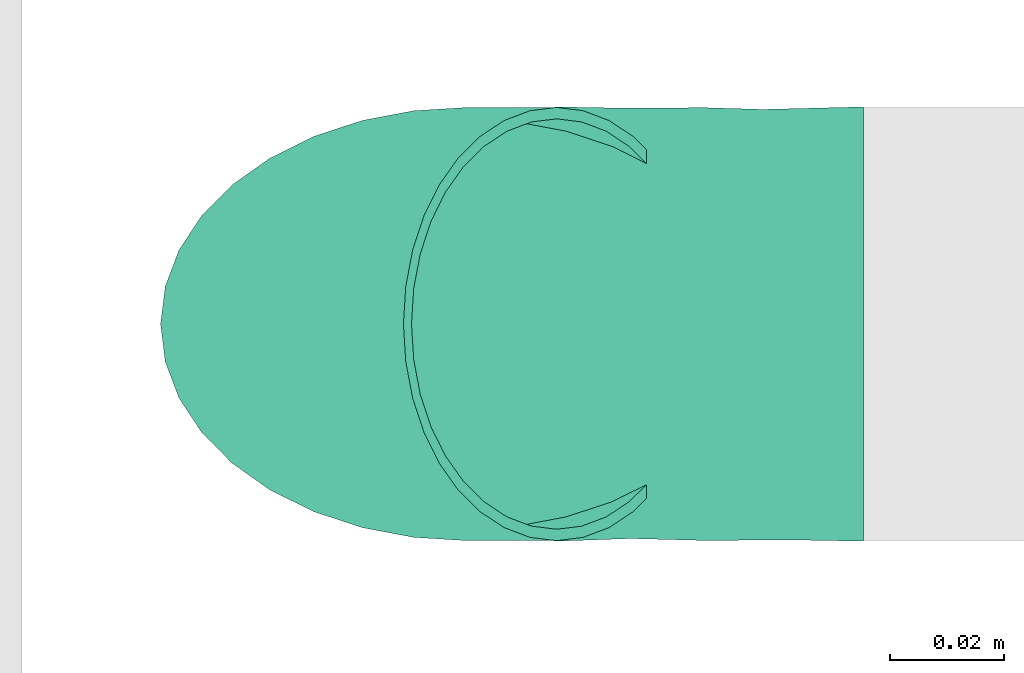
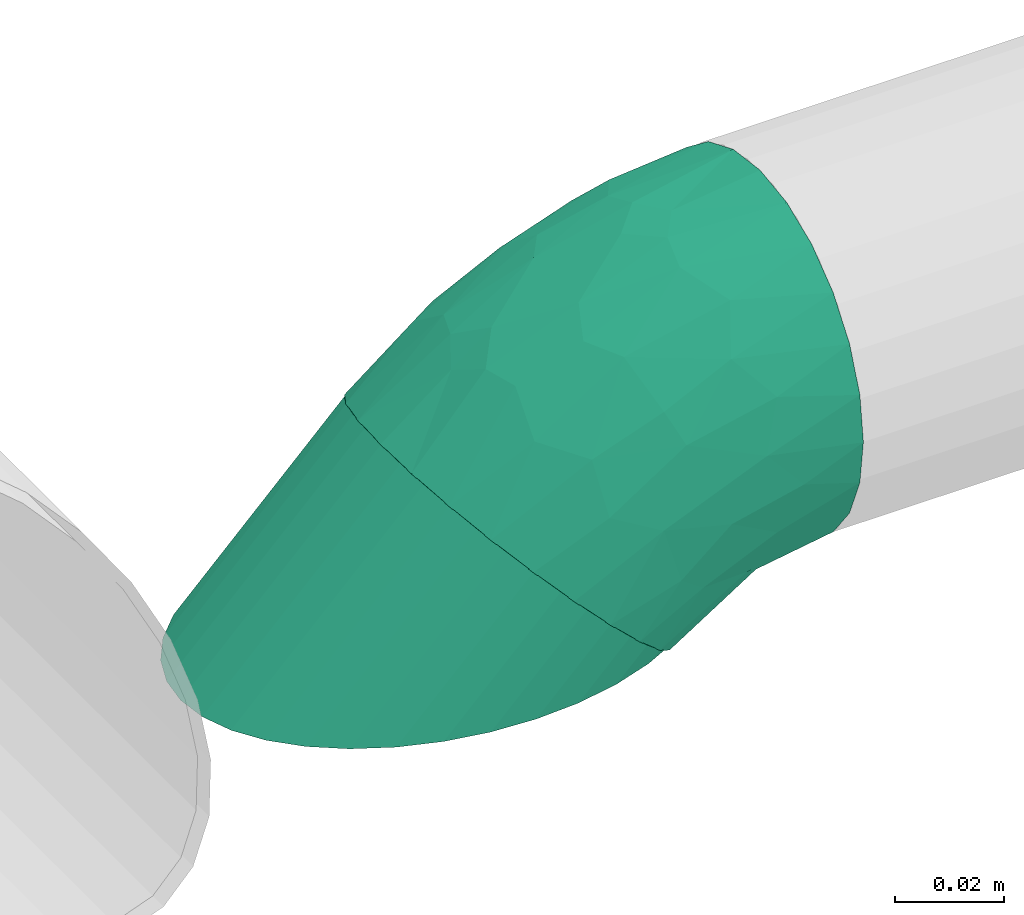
# One storey, part 120 of 156: 1 flow fitting, 1 flow segment.
"""IFC2X3 building model written with IfcOpenShell, lengths in millimetres."""

from ifc_helpers import new_model, entity, si_unit, converted_unit, derived_unit, direction, frame, origin_with_axes, place, context, subcontext, project, spatial, open_shell, faceted_brep, surface_model, source, transform, mapped, type_object, element, save


model = new_model("IFC2X3")

# Units and contexts
model_context = context("Model", 3, precision=0.01, world=frame((0.0, 4.29681676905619e-09, 0.0)), true_north=direction((4.01073788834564e-13, 1.0)))
plan_context = context("Plan", 3, precision=0.01, world=frame((0.0, 4.29681676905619e-09, 0.0)), true_north=direction((4.01073788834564e-13, 1.0)))
body_context = subcontext(model_context, "Body", "Model", "MODEL_VIEW")
ifc_project = project(units=[converted_unit("PLANEANGLEUNIT", "DEGREE", entity("IfcPositiveLengthMeasure", 0.0174532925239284), si_unit("PLANEANGLEUNIT", "RADIAN"), dimensions=[0, 0, 0, 0, 0, 0, 0]), si_unit("AREAUNIT", "SQUARE_METRE"), si_unit("LENGTHUNIT", "METRE", prefix="MILLI"), si_unit("MASSUNIT", "GRAM", prefix="KILO"), si_unit("POWERUNIT", "WATT"), si_unit("PRESSUREUNIT", "PASCAL", prefix="KILO"), si_unit("FORCEUNIT", "NEWTON", prefix="KILO"), si_unit("ELECTRICVOLTAGEUNIT", "VOLT"), si_unit("ELECTRICCURRENTUNIT", "AMPERE"), si_unit("THERMODYNAMICTEMPERATUREUNIT", "DEGREE_CELSIUS"), si_unit("TIMEUNIT", "SECOND"), si_unit("VOLUMEUNIT", "CUBIC_METRE"), derived_unit("LINEARVELOCITYUNIT", [(si_unit("LENGTHUNIT", "METRE"), 1), (si_unit("TIMEUNIT", "SECOND"), -1)]), derived_unit("VOLUMETRICFLOWRATEUNIT", [(si_unit("VOLUMEUNIT", "CUBIC_METRE"), 1), (si_unit("TIMEUNIT", "SECOND"), -1)]), derived_unit("THERMALTRANSMITTANCEUNIT", [(si_unit("POWERUNIT", "WATT"), 1), (si_unit("THERMODYNAMICTEMPERATUREUNIT", "KELVIN"), -1), (si_unit("AREAUNIT", "SQUARE_METRE"), -1)]), derived_unit("SOUNDPRESSUREUNIT", [(si_unit("PRESSUREUNIT", "PASCAL"), 1)])], contexts=[model_context, plan_context])

# Site, building, storey
site_placement = place(None, frame((0.0, -4.29681676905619e-09, 0.0), z_axis=(0.0, 0.0, 1.0), x_axis=(1.0, 0.0, 0.0)))
site = spatial("IfcSite", under=ifc_project, at=site_placement, CompositionType="ELEMENT")
building_placement = place(site_placement, frame((0.0, 4.29681676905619e-09, 0.0), z_axis=(0.0, 0.0, 1.0), x_axis=(1.0, 0.0, 0.0)))
building = spatial("IfcBuilding", under=site, at=building_placement, Name="mc-building", CompositionType="ELEMENT")
storey_placement = place(building_placement, frame((0.0, 0.0, 205200.0), z_axis=(0.0, 0.0, 1.0), x_axis=(1.0, 0.0, 0.0)))
storey = spatial("IfcBuildingStorey", under=building, at=storey_placement, Name="Nivå D + 1,2 m", CompositionType="ELEMENT", Elevation=205200.0)

# Flow fitting
pipe_fitting_type = type_object("IfcPipeFittingType", Name="magi_pipe_fe_elbow_short_001", PredefinedType="BEND")
shared_shape = source(origin_with_axes(), body_context, "Body", "SurfaceModel", [
    surface_model("IfcShellBasedSurfaceModel", [(-31.56307, 19.05, -32.99557), (-31.56307, 9.86101, -36.80177), (-31.56307, 0.0, -38.1), (-31.56307, 26.94077, -26.94077), (-31.56307, 36.80177, -9.86101), (-31.56307, 32.99557, -19.05), (-31.56307, -36.80177, 9.86101), (-31.56307, -9.86101, -36.80177), (-31.56307, -26.94077, -26.94077), (-31.56307, -32.99557, -19.05), (-31.56307, -19.05, -32.99557), (-31.56307, -36.80177, -9.86101), (-31.56307, -38.1, 0.0), (-31.56307, 36.80177, 9.86101), (-31.56307, 26.94077, 26.94077), (-31.56307, 32.99557, 19.05), (-31.56307, 9.86101, 36.80177), (-31.56307, 19.05, 32.99557), (-31.56307, -19.05, 32.99557), (-31.56307, 0.0, 38.1), (-31.56307, -32.99557, 19.05), (-31.56307, -26.94077, 26.94077), (-31.56307, -9.86101, 36.80177), (-31.56307, 38.1, 0.0), (15.34568, 29.29125, -36.80177), (29.29125, 15.34568, -36.80177), (22.31846, 22.31846, -38.1), (3.26846, 41.36846, -26.94077), (8.84808, 35.78885, -32.99557), (-1.01293, 45.64985, -19.05), (-3.70432, 48.34125, -9.86101), (41.36846, 3.26846, -26.94077), (48.34125, -3.70432, 9.86101), (48.34125, -3.70432, -9.86101), (35.78885, 8.84808, -32.99557), (45.64985, -1.01293, 19.05), (45.64985, -1.01293, -19.05), (49.25923, -4.62231, 0.0), (22.31846, 22.31846, 38.1), (15.34568, 29.29125, 36.80177), (-4.62231, 49.25923, 0.0), (-3.70432, 48.34125, 9.86101), (-1.01293, 45.64985, 19.05), (3.26846, 41.36846, 26.94077), (8.84808, 35.78885, 32.99557), (35.78885, 8.84808, 32.99557), (41.36846, 3.26846, 26.94077), (29.29125, 15.34568, 36.80177), (9.70384, -23.42713, 21.23198), (-8.42903, -21.53324, 29.39945), (-12.30295, -29.13928, 22.30902), (-12.72994, -35.62057, 0.0), (-1.98006, -34.20532, 0.0), (-8.1322, -35.10083, 6.50594), (29.30408, -11.90509, 22.30902), (-15.09665, -13.97095, 34.82144), (3.91202, -9.44444, 34.34139), (1.1309, 22.90491, 35.56093), (6.8876, 18.03483, 37.54584), (-11.37114, -3.66836, 37.59524), (-3.62383, 8.74869, 37.96612), (-19.08985, 5.27957, 37.86879), (-10.82238, 26.12754, 31.10505), (-16.802, 31.95247, 24.04366), (20.5539, 0.79599, 34.82144), (-14.63922, 15.85445, 35.61813), (14.70349, -24.93596, 15.0155), (-6.83146, -32.96227, 13.23115), (11.82908, -28.55793, 8.28106), (-15.69549, 37.89226, 15.65312), (30.57037, -19.0697, 6.50594), (34.18897, -16.18612, 0.0), (-15.26074, 40.82522, 8.00526), (28.13842, -18.47728, 13.23115), (10.63454, 5.44669, 37.59524), (21.18653, -9.26608, 29.39945), (-16.98283, 41.00019, 0.0), (6.39501, -15.43892, 30.38264), (11.80343, -28.49601, 0.0), (25.58693, -22.7867, 0.0), (-11.37114, -3.66836, -37.59524), (-8.1322, -35.10083, -6.50594), (11.82908, -28.55793, -8.28105), (10.63454, 5.44669, -37.59524), (-16.99589, 15.39655, -35.56093), (-17.62282, 7.88229, -37.54584), (-10.713, 34.47461, -24.04366), (21.18653, -9.26608, -29.39945), (-15.69549, 37.89226, -15.65312), (28.13842, -18.47728, -13.23115), (-18.07682, 39.65877, -8.00526), (-0.8593, 21.56228, -35.61813), (-6.83146, -32.96227, -13.23115), (-10.82238, 26.12754, -31.10505), (-12.30295, -29.13928, -22.30902), (-8.42903, -21.53324, -29.39945), (6.39501, -15.43892, -30.38263), (9.70384, -23.42713, -21.23198), (-15.09665, -13.97095, -34.82144), (20.5539, 0.79599, -34.82144), (3.91202, -9.44444, -34.34139), (30.57037, -19.0697, -6.50594), (9.76534, 17.23178, -37.86879), (7.23544, -28.02932, -15.0155), (29.30408, -11.90509, -22.30902), (-3.62383, 8.74869, -37.96612)], [open_shell([[[0, 1, 2]], [[3, 0, 2]], [[4, 5, 3]], [[6, 3, 2]], [[6, 2, 7]], [[8, 9, 10]], [[10, 9, 6]], [[11, 12, 9]], [[9, 12, 6]], [[10, 6, 7]], [[3, 6, 4]], [[13, 4, 14]], [[15, 13, 14]], [[16, 17, 14]], [[18, 14, 4]], [[16, 14, 19]], [[20, 21, 6]], [[6, 21, 4]], [[22, 19, 18]], [[18, 4, 21]], [[14, 18, 19]], [[23, 4, 13]], [[24, 25, 26]], [[27, 24, 28]], [[27, 29, 30]], [[24, 27, 25]], [[30, 25, 27]], [[31, 32, 33]], [[31, 34, 35]], [[31, 33, 36]], [[37, 33, 32]], [[38, 34, 25]], [[25, 30, 39]], [[40, 41, 42]], [[42, 43, 30]], [[43, 44, 39]], [[39, 30, 43]], [[39, 38, 25]], [[35, 45, 46]], [[32, 31, 35]], [[45, 38, 47]], [[38, 45, 35]], [[38, 35, 34]], [[30, 40, 42]], [[48, 49, 50]], [[51, 52, 53]], [[18, 21, 49]], [[35, 46, 54]], [[55, 49, 56]], [[50, 49, 21]], [[39, 57, 58]], [[22, 18, 55]], [[59, 60, 61]], [[19, 22, 59]], [[14, 62, 63]], [[45, 47, 64]], [[61, 16, 19]], [[17, 65, 62]], [[6, 51, 53]], [[44, 43, 62]], [[66, 67, 68]], [[62, 14, 17]], [[21, 20, 50]], [[15, 63, 69]], [[13, 15, 69]], [[32, 70, 71]], [[72, 23, 13]], [[73, 66, 68]], [[67, 53, 68]], [[17, 16, 65]], [[38, 58, 74]], [[46, 45, 75]], [[42, 41, 69]], [[74, 47, 38]], [[48, 50, 67]], [[46, 75, 54]], [[60, 58, 57]], [[75, 45, 64]], [[20, 67, 50]], [[70, 32, 73]], [[48, 54, 75]], [[61, 65, 16]], [[48, 66, 54]], [[13, 69, 72]], [[20, 6, 67]], [[76, 72, 40]], [[49, 77, 56]], [[41, 72, 69]], [[56, 74, 59]], [[42, 69, 63]], [[56, 64, 74]], [[42, 63, 43]], [[60, 59, 74]], [[39, 44, 57]], [[57, 62, 65]], [[55, 59, 22]], [[15, 14, 63]], [[73, 32, 35]], [[73, 35, 54]], [[77, 48, 75]], [[43, 63, 62]], [[62, 57, 44]], [[60, 57, 65]], [[49, 55, 18]], [[59, 55, 56]], [[74, 64, 47]], [[75, 64, 56]], [[6, 12, 51]], [[68, 52, 78]], [[6, 53, 67]], [[52, 68, 53]], [[70, 68, 79]], [[71, 70, 79]], [[71, 37, 32]], [[68, 70, 73]], [[74, 58, 60]], [[38, 39, 58]], [[59, 61, 19]], [[65, 61, 60]], [[48, 77, 49]], [[75, 56, 77]], [[40, 72, 41]], [[72, 76, 23]], [[54, 66, 73]], [[67, 66, 48]], [[79, 68, 78]], [[7, 2, 80]], [[52, 81, 82]], [[26, 25, 83]], [[84, 85, 1]], [[5, 86, 3]], [[34, 31, 87]], [[88, 86, 5]], [[36, 33, 89]], [[4, 90, 88]], [[28, 24, 91]], [[11, 81, 51]], [[0, 84, 1]], [[81, 11, 92]], [[27, 93, 86]], [[92, 9, 94]], [[94, 8, 95]], [[8, 10, 95]], [[96, 97, 95]], [[11, 9, 92]], [[8, 94, 9]], [[98, 10, 7]], [[99, 83, 25]], [[30, 29, 88]], [[100, 98, 80]], [[23, 76, 90]], [[97, 94, 95]], [[40, 30, 90]], [[100, 80, 83]], [[27, 28, 93]], [[88, 5, 4]], [[29, 86, 88]], [[98, 95, 10]], [[91, 93, 28]], [[85, 80, 2]], [[93, 91, 84]], [[3, 93, 0]], [[33, 71, 101]], [[102, 24, 26]], [[99, 25, 34]], [[103, 89, 82]], [[31, 104, 87]], [[100, 99, 87]], [[31, 36, 104]], [[105, 102, 83]], [[104, 97, 87]], [[105, 83, 80]], [[101, 71, 79]], [[102, 91, 24]], [[105, 85, 84]], [[81, 92, 82]], [[97, 103, 94]], [[87, 96, 100]], [[36, 89, 104]], [[30, 88, 90]], [[97, 104, 89]], [[29, 27, 86]], [[3, 86, 93]], [[93, 84, 0]], [[105, 84, 91]], [[80, 98, 7]], [[95, 98, 100]], [[87, 99, 34]], [[83, 99, 100]], [[51, 81, 52]], [[51, 12, 11]], [[103, 82, 92]], [[101, 82, 89]], [[82, 79, 78]], [[33, 37, 71]], [[82, 101, 79]], [[33, 101, 89]], [[80, 85, 105]], [[2, 1, 85]], [[83, 102, 26]], [[91, 102, 105]], [[97, 96, 87]], [[95, 100, 96]], [[23, 90, 4]], [[90, 76, 40]], [[94, 103, 92]], [[89, 103, 97]], [[52, 82, 78]]])]),
])
flow_fitting_placement = place(storey_placement, frame((327189.18081, 461572.43973, 4038.0), z_axis=(0.0, -1.0, 0.0), x_axis=(-1.0, 0.0, 0.0)))
element("IfcFlowFitting", 1, at=flow_fitting_placement, inside=storey, type_object=pipe_fitting_type, Name="magi_pipe_fe_elbow_short_001", context=body_context, shape_type="MappedRepresentation", body=[
    mapped(shared_shape, transform((0.0, 0.0, 0.0), scale=1.0)),
])

# Flow segment
pipe_segment_type = type_object("IfcPipeSegmentType", Name="Stålrør normaltykke", PredefinedType="RIGIDSEGMENT")
flow_segment_placement = place(storey_placement, frame((327113.88319, 461572.43973, 3962.70237000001), z_axis=(-0.707106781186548, 0.0, 0.707106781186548), x_axis=(0.707106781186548, 0.0, 0.707106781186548)))
element("IfcFlowSegment", 2, at=flow_segment_placement, inside=storey, type_object=pipe_segment_type, Name="Stålrør normaltykke", context=body_context, shape_type="Brep", body=[
    faceted_brep([(58.9981485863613, 35.4530791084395, -6.25133439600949), (52.7468141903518, 36.0, 0.0), (75.0, 36.0, 0.0), (75.0, 35.4530791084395, -6.25133439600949), (65.0595393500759, 33.8289343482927, -12.3127251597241), (75.0, 33.8289343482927, -12.3127251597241), (70.7468141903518, 31.1769145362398, -18.0), (75.0, 31.1769145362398, -18.0), (75.0, 28.1988017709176, -22.2531858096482), (70.7468141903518, -31.1769145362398, -18.0), (75.0, -28.1988017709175, -22.2531858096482), (75.0, -31.1769145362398, -18.0), (65.0595393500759, -33.8289343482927, -12.3127251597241), (75.0, -33.8289343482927, -12.3127251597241), (58.9981485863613, -35.4530791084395, -6.25133439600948), (75.0, -35.4530791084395, -6.25133439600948), (52.7468141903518, -36.0, 4.40872847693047e-15), (75.0, -36.0, 4.40872847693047e-15), (46.4954797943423, -35.4530791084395, 6.25133439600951), (75.0, -35.4530791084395, 6.25133439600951), (40.4340890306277, -33.8289343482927, 12.3127251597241), (75.0, -33.8289343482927, 12.3127251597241), (34.7468141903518, -31.1769145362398, 18.0), (75.0, -31.1769145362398, 18.0), (29.6064602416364, -27.5775999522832, 23.1403539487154), (75.0, -27.5775999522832, 23.1403539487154), (25.1692142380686, -23.1403539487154, 27.5775999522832), (75.0, -23.1403539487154, 27.5775999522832), (21.569899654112, -18.0, 31.1769145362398), (75.0, -18.0, 31.1769145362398), (18.9178798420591, -12.3127251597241, 33.8289343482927), (75.0, -12.3127251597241, 33.8289343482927), (17.2937350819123, -6.25133439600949, 35.4530791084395), (75.0, -6.25133439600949, 35.4530791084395), (16.7468141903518, 2.20436423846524e-15, 36.0), (75.0, 2.20436423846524e-15, 36.0), (17.2937350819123, 6.2513343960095, 35.4530791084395), (75.0, 6.2513343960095, 35.4530791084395), (18.9178798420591, 12.3127251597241, 33.8289343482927), (75.0, 12.3127251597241, 33.8289343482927), (21.569899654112, 18.0, 31.1769145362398), (75.0, 18.0, 31.1769145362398), (25.1692142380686, 23.1403539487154, 27.5775999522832), (75.0, 23.1403539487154, 27.5775999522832), (29.6064602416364, 27.5775999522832, 23.1403539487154), (75.0, 27.5775999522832, 23.1403539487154), (34.7468141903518, 31.1769145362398, 18.0), (75.0, 31.1769145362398, 18.0), (40.4340890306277, 33.8289343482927, 12.3127251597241), (75.0, 33.8289343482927, 12.3127251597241), (46.4954797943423, 35.4530791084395, 6.25133439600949), (75.0, 35.4530791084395, 6.25133439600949), (52.7468141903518, 38.0, 0.0), (59.3454449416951, 37.4226946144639, -6.59863075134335), (75.0, 37.4226946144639, -6.59863075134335), (75.0, 38.0, 0.0), (46.1481834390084, 37.4226946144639, 6.59863075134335), (75.0, 37.4226946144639, 6.59863075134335), (39.7500487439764, 35.7083195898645, 12.9967654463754), (75.0, 35.7083195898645, 12.9967654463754), (33.7468141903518, 32.9089653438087, 19.0), (75.0, 32.9089653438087, 19.0), (28.3208850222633, 29.1096888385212, 24.4259291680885), (75.0, 29.1096888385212, 24.4259291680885), (23.6371253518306, 24.4259291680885, 29.1096888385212), (75.0, 24.4259291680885, 29.1096888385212), (19.8378488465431, 19.0, 32.9089653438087), (75.0, 19.0, 32.9089653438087), (17.0384946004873, 12.9967654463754, 35.7083195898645), (75.0, 12.9967654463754, 35.7083195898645), (15.3241195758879, 6.59863075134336, 37.4226946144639), (75.0, 6.59863075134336, 37.4226946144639), (14.7468141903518, 2.32682891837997e-15, 38.0), (75.0, 2.32682891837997e-15, 38.0), (15.3241195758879, -6.59863075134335, 37.4226946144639), (75.0, -6.59863075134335, 37.4226946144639), (17.0384946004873, -12.9967654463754, 35.7083195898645), (75.0, -12.9967654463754, 35.7083195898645), (19.8378488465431, -19.0, 32.9089653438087), (75.0, -19.0, 32.9089653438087), (23.6371253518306, -24.4259291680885, 29.1096888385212), (75.0, -24.4259291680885, 29.1096888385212), (28.3208850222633, -29.1096888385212, 24.4259291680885), (75.0, -29.1096888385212, 24.4259291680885), (33.7468141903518, -32.9089653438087, 19.0), (75.0, -32.9089653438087, 19.0), (39.7500487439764, -35.7083195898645, 12.9967654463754), (75.0, -35.7083195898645, 12.9967654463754), (46.1481834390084, -37.4226946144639, 6.59863075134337), (75.0, -37.4226946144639, 6.59863075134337), (52.7468141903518, -38.0, 4.65365783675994e-15), (75.0, -38.0, 4.65365783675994e-15), (59.3454449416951, -37.4226946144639, -6.59863075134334), (75.0, -37.4226946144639, -6.59863075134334), (65.7435796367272, -35.7083195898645, -12.9967654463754), (75.0, -35.7083195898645, -12.9967654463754), (71.7468141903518, -32.9089653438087, -19.0), (75.0, -32.9089653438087, -19.0), (75.0, -30.6310601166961, -22.2531858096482), (71.7468141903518, 32.9089653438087, -19.0), (75.0, 30.6310601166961, -22.2531858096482), (75.0, 32.9089653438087, -19.0), (65.7435796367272, 35.7083195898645, -12.9967654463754), (75.0, 35.7083195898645, -12.9967654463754)], [[[0, 1, 2, 3]], [[4, 0, 3, 5]], [[6, 4, 5, 7]], [[8, 6, 7]], [[9, 10, 11]], [[12, 9, 11, 13]], [[14, 12, 13, 15]], [[16, 14, 15, 17]], [[18, 16, 17, 19]], [[20, 18, 19, 21]], [[22, 20, 21, 23]], [[24, 22, 23, 25]], [[26, 24, 25, 27]], [[28, 26, 27, 29]], [[30, 28, 29, 31]], [[32, 30, 31, 33]], [[34, 32, 33, 35]], [[36, 34, 35, 37]], [[38, 36, 37, 39]], [[40, 38, 39, 41]], [[42, 40, 41, 43]], [[44, 42, 43, 45]], [[46, 44, 45, 47]], [[48, 46, 47, 49]], [[50, 48, 49, 51]], [[1, 50, 51, 2]], [[52, 53, 54, 55]], [[56, 52, 55, 57]], [[58, 56, 57, 59]], [[60, 58, 59, 61]], [[62, 60, 61, 63]], [[64, 62, 63, 65]], [[66, 64, 65, 67]], [[68, 66, 67, 69]], [[70, 68, 69, 71]], [[72, 70, 71, 73]], [[74, 72, 73, 75]], [[76, 74, 75, 77]], [[78, 76, 77, 79]], [[80, 78, 79, 81]], [[82, 80, 81, 83]], [[84, 82, 83, 85]], [[86, 84, 85, 87]], [[88, 86, 87, 89]], [[90, 88, 89, 91]], [[92, 90, 91, 93]], [[94, 92, 93, 95]], [[96, 94, 95, 97]], [[98, 96, 97]], [[99, 100, 101]], [[102, 99, 101, 103]], [[53, 102, 103, 54]], [[100, 8, 7, 5, 3, 2, 51, 49, 47, 45, 43, 41, 39, 37, 35, 33, 31, 29, 27, 25, 23, 21, 19, 17, 15, 13, 11, 10, 98, 97, 95, 93, 91, 89, 87, 85, 83, 81, 79, 77, 75, 73, 71, 69, 67, 65, 63, 61, 59, 57, 55, 54, 103, 101]], [[4, 6, 8, 100, 99, 102, 53, 52, 56, 58, 60, 62, 64, 66, 68, 70, 72, 74, 76, 78, 80, 82, 84, 86, 88, 90, 92, 94, 96, 98, 10, 9, 12, 14, 16, 18, 20, 22, 24, 26, 28, 30, 32, 34, 36, 38, 40, 42, 44, 46, 48, 50, 1, 0]]], orient=[[False], [False], [False], [False], [False], [False], [False], [False], [False], [False], [False], [False], [False], [False], [False], [False], [False], [False], [False], [False], [False], [False], [False], [False], [False], [False], [False], [False], [False], [False], [False], [False], [False], [False], [False], [False], [False], [False], [False], [False], [False], [False], [False], [False], [False], [False], [False], [False], [False], [False], [False], [False], [False], [False]]),
])

save(model, "model.ifc")
